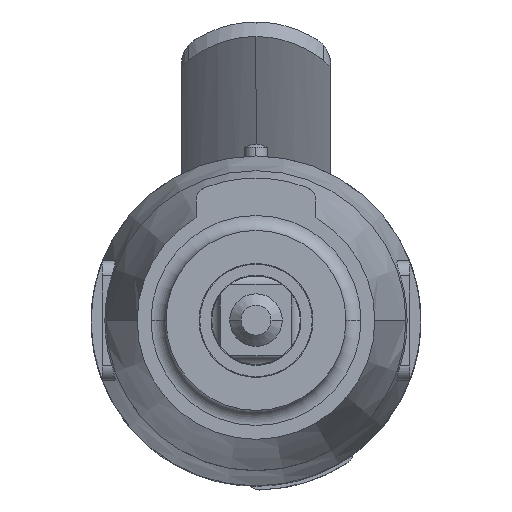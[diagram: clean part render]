
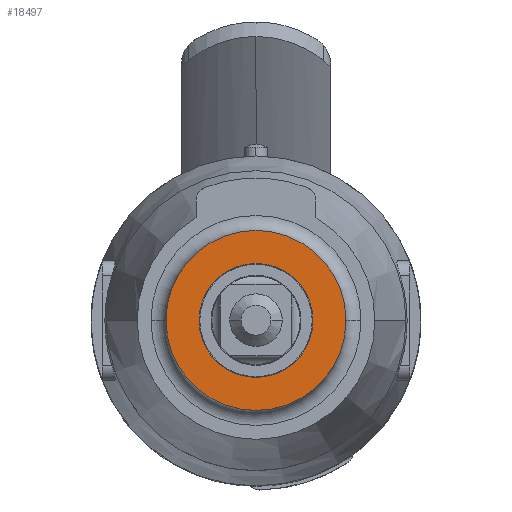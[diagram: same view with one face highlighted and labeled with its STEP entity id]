
A CAD part, top view. The second image highlights one B-rep face of the part: STEP entity #18497.
In plain terms, the highlighted planar face has unit normal (0, 0, 1).
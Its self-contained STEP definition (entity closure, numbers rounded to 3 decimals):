
#1838 = EDGE_LOOP ( 'NONE', ( #1839, #1842 ) ) ;
#1839 = ORIENTED_EDGE ( 'NONE', *, *, #3213, .T. ) ;
#1840 = ORIENTED_EDGE ( 'NONE', *, *, #3145, .F. ) ;
#1841 = EDGE_CURVE ( 'NONE', #3211, #3214, #11988, .T. ) ;
#1842 = ORIENTED_EDGE ( 'NONE', *, *, #1841, .T. ) ;
#1843 = ORIENTED_EDGE ( 'NONE', *, *, #13423, .F. ) ;
#3143 = VERTEX_POINT ( 'NONE', #15424 ) ;
#3145 = EDGE_CURVE ( 'NONE', #3143, #3146, #15423, .T. ) ;
#3146 = VERTEX_POINT ( 'NONE', #15418 ) ;
#3211 = VERTEX_POINT ( 'NONE', #15643 ) ;
#3213 = EDGE_CURVE ( 'NONE', #3214, #3211, #15642, .T. ) ;
#3214 = VERTEX_POINT ( 'NONE', #15637 ) ;
#11976 = DIRECTION ( 'NONE',  ( 1., 0., 0. ) ) ;
#11978 = DIRECTION ( 'NONE',  ( 0., 0., 1. ) ) ;
#11979 = CARTESIAN_POINT ( 'NONE',  ( 0., 0., 0. ) ) ;
#11980 = AXIS2_PLACEMENT_3D ( 'NONE', #11979, #11978, #11976 ) ;
#11988 = CIRCLE ( 'NONE', #11980, 12. ) ;
#13423 = EDGE_CURVE ( 'NONE', #3146, #3143, #28520, .T. ) ;
#15418 = CARTESIAN_POINT ( 'NONE',  ( 7.6, 0., 0. ) ) ;
#15419 = DIRECTION ( 'NONE',  ( 1., 0., 0. ) ) ;
#15420 = DIRECTION ( 'NONE',  ( 0., 0., 1. ) ) ;
#15421 = CARTESIAN_POINT ( 'NONE',  ( 0., 0., 0. ) ) ;
#15422 = AXIS2_PLACEMENT_3D ( 'NONE', #15421, #15420, #15419 ) ;
#15423 = CIRCLE ( 'NONE', #15422, 7.6 ) ;
#15424 = CARTESIAN_POINT ( 'NONE',  ( -7.6, 0., 0. ) ) ;
#15637 = CARTESIAN_POINT ( 'NONE',  ( 12., 0., 0. ) ) ;
#15638 = DIRECTION ( 'NONE',  ( 1., 0., 0. ) ) ;
#15639 = DIRECTION ( 'NONE',  ( 0., 0., 1. ) ) ;
#15640 = CARTESIAN_POINT ( 'NONE',  ( 0., 0., 0. ) ) ;
#15641 = AXIS2_PLACEMENT_3D ( 'NONE', #15640, #15639, #15638 ) ;
#15642 = CIRCLE ( 'NONE', #15641, 12. ) ;
#15643 = CARTESIAN_POINT ( 'NONE',  ( -12., 0., 0. ) ) ;
#18497 = ADVANCED_FACE ( 'NONE', ( #28794, #28808 ), #28807, .F. ) ;
#18511 = EDGE_LOOP ( 'NONE', ( #1843, #1840 ) ) ;
#28516 = DIRECTION ( 'NONE',  ( 1., 0., 0. ) ) ;
#28517 = DIRECTION ( 'NONE',  ( 0., 0., 1. ) ) ;
#28518 = CARTESIAN_POINT ( 'NONE',  ( 0., 0., 0. ) ) ;
#28519 = AXIS2_PLACEMENT_3D ( 'NONE', #28518, #28517, #28516 ) ;
#28520 = CIRCLE ( 'NONE', #28519, 7.6 ) ;
#28794 = FACE_BOUND ( 'NONE', #18511, .T. ) ;
#28807 = PLANE ( 'NONE',  #28838 ) ;
#28808 = FACE_OUTER_BOUND ( 'NONE', #1838, .T. ) ;
#28835 = DIRECTION ( 'NONE',  ( -1., 0., 0. ) ) ;
#28836 = DIRECTION ( 'NONE',  ( 0., 0., -1. ) ) ;
#28837 = CARTESIAN_POINT ( 'NONE',  ( 0., 0., 0. ) ) ;
#28838 = AXIS2_PLACEMENT_3D ( 'NONE', #28837, #28836, #28835 ) ;
